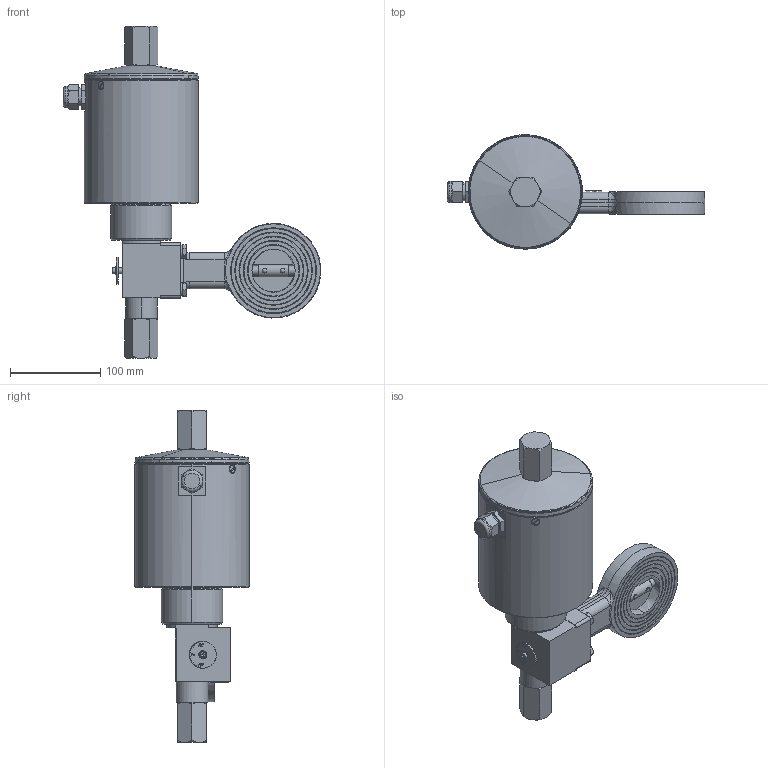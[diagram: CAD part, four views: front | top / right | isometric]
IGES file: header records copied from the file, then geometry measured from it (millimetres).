
Global section: file name: No Iges File Name specified; native system: AutoDesk Inventor R12.0; preprocessor: AutoDesk Inventor Iges Exporter R12.0; date: 20100526.085217; units: millimetre
Bounding box: 286.17 x 127 x 368.88 mm (x, y, z)
Volume: 2600298 mm3; surface area: 177302.5 mm2
Topology: 1 solids, 1 shells, 672 faces, 1732 edges, 1104 vertices
Faces by surface type: plane 373, bspline 87, cone 80, cylinder 79, revolution 37, torus 12, sphere 4
